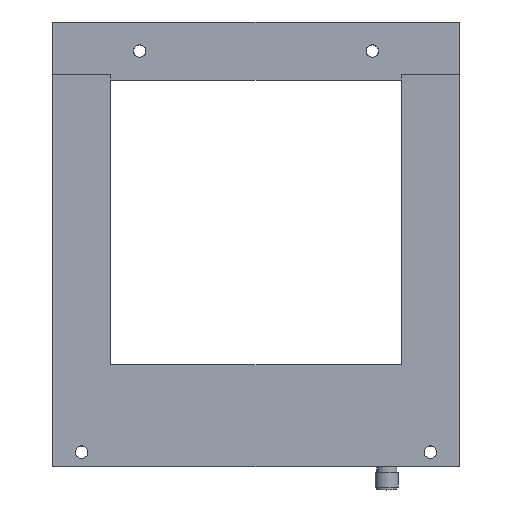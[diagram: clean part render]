
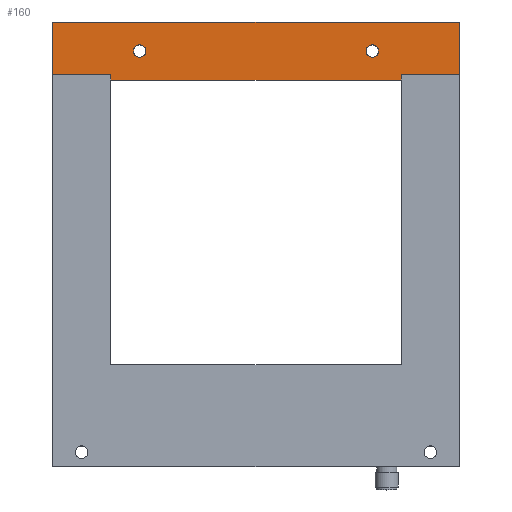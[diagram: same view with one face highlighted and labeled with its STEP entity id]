
A CAD part, top view. The second image highlights one B-rep face of the part: STEP entity #160.
In plain terms, the highlighted planar face has unit normal (0, 0, 1).
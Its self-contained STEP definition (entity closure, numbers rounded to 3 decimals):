
#160=ADVANCED_FACE('',(#369,#370,#371),#372,.T.);
#369=FACE_OUTER_BOUND('',#651,.T.);
#370=FACE_BOUND('',#652,.T.);
#371=FACE_BOUND('',#653,.T.);
#372=PLANE('',#654);
#651=EDGE_LOOP('',(#1048,#1049,#1050,#1051,#1052,#1053,#1054,#1055));
#652=EDGE_LOOP('',(#1056,#1057));
#653=EDGE_LOOP('',(#1058,#1059));
#654=AXIS2_PLACEMENT_3D('',#1060,#1061,#1062);
#1048=ORIENTED_EDGE('',*,*,#1730,.F.);
#1049=ORIENTED_EDGE('',*,*,#1731,.F.);
#1050=ORIENTED_EDGE('',*,*,#1732,.F.);
#1051=ORIENTED_EDGE('',*,*,#1733,.F.);
#1052=ORIENTED_EDGE('',*,*,#1649,.F.);
#1053=ORIENTED_EDGE('',*,*,#1640,.T.);
#1054=ORIENTED_EDGE('',*,*,#1734,.F.);
#1055=ORIENTED_EDGE('',*,*,#1735,.T.);
#1056=ORIENTED_EDGE('',*,*,#1736,.T.);
#1057=ORIENTED_EDGE('',*,*,#1737,.T.);
#1058=ORIENTED_EDGE('',*,*,#1738,.T.);
#1059=ORIENTED_EDGE('',*,*,#1692,.T.);
#1060=CARTESIAN_POINT('',(0.,70.75,10.0));
#1061=DIRECTION('',(0.0,0.0,1.0));
#1062=DIRECTION('',(1.0,0.0,0.0));
#1640=EDGE_CURVE('',#2064,#2062,#2065,.T.);
#1649=EDGE_CURVE('',#2064,#2079,#2080,.T.);
#1692=EDGE_CURVE('',#2153,#2157,#2159,.T.);
#1730=EDGE_CURVE('',#2223,#2224,#2225,.T.);
#1731=EDGE_CURVE('',#2226,#2223,#2227,.T.);
#1732=EDGE_CURVE('',#2228,#2226,#2229,.T.);
#1733=EDGE_CURVE('',#2079,#2228,#2230,.T.);
#1734=EDGE_CURVE('',#2231,#2062,#2232,.T.);
#1735=EDGE_CURVE('',#2231,#2224,#2233,.T.);
#1736=EDGE_CURVE('',#2234,#2235,#2236,.T.);
#1737=EDGE_CURVE('',#2235,#2234,#2237,.T.);
#1738=EDGE_CURVE('',#2157,#2153,#2238,.T.);
#2062=VERTEX_POINT('',#2770);
#2064=VERTEX_POINT('',#2773);
#2065=LINE('',#2774,#2775);
#2079=VERTEX_POINT('',#2795);
#2080=LINE('',#2796,#2797);
#2153=VERTEX_POINT('',#2890);
#2157=VERTEX_POINT('',#2895);
#2159=CIRCLE('',#2898,2.15);
#2223=VERTEX_POINT('',#2982);
#2224=VERTEX_POINT('',#2983);
#2225=LINE('',#2984,#2985);
#2226=VERTEX_POINT('',#2986);
#2227=LINE('',#2987,#2988);
#2228=VERTEX_POINT('',#2989);
#2229=LINE('',#2990,#2991);
#2230=LINE('',#2992,#2993);
#2231=VERTEX_POINT('',#2994);
#2232=LINE('',#2995,#2996);
#2233=LINE('',#2997,#2998);
#2234=VERTEX_POINT('',#2999);
#2235=VERTEX_POINT('',#3000);
#2236=CIRCLE('',#3001,2.15);
#2237=CIRCLE('',#3002,2.15);
#2238=CIRCLE('',#3003,2.15);
#2770=CARTESIAN_POINT('',(-50.0,60.5,10.0));
#2773=CARTESIAN_POINT('',(-50.0,62.5,10.0));
#2774=CARTESIAN_POINT('',(-50.0,62.5,10.0));
#2775=VECTOR('',#3651,100.0);
#2795=CARTESIAN_POINT('',(-70.0,62.5,10.0));
#2796=CARTESIAN_POINT('',(-50.0,62.5,10.0));
#2797=VECTOR('',#3658,1.0);
#2890=CARTESIAN_POINT('',(-37.85,70.5,10.0));
#2895=CARTESIAN_POINT('',(-42.15,70.5,10.0));
#2898=AXIS2_PLACEMENT_3D('',#3726,#3727,#3728);
#2982=CARTESIAN_POINT('',(70.0,62.5,10.0));
#2983=CARTESIAN_POINT('',(50.0,62.5,10.0));
#2984=CARTESIAN_POINT('',(70.0,62.5,10.0));
#2985=VECTOR('',#3778,1.0);
#2986=CARTESIAN_POINT('',(70.0,80.5,10.0));
#2987=CARTESIAN_POINT('',(70.0,80.5,10.0));
#2988=VECTOR('',#3779,1.0);
#2989=CARTESIAN_POINT('',(-70.0,80.5,10.0));
#2990=CARTESIAN_POINT('',(-70.0,80.5,10.0));
#2991=VECTOR('',#3780,1.0);
#2992=CARTESIAN_POINT('',(-70.0,62.5,10.0));
#2993=VECTOR('',#3781,1.0);
#2994=CARTESIAN_POINT('',(50.0,60.5,10.0));
#2995=CARTESIAN_POINT('',(50.0,60.5,10.0));
#2996=VECTOR('',#3782,1.0);
#2997=CARTESIAN_POINT('',(50.0,-37.5,10.0));
#2998=VECTOR('',#3783,100.0);
#2999=CARTESIAN_POINT('',(37.85,70.5,10.0));
#3000=CARTESIAN_POINT('',(42.15,70.5,10.0));
#3001=AXIS2_PLACEMENT_3D('',#3784,#3785,#3786);
#3002=AXIS2_PLACEMENT_3D('',#3787,#3788,#3789);
#3003=AXIS2_PLACEMENT_3D('',#3790,#3791,#3792);
#3651=DIRECTION('',(0.,-1.0,0.0));
#3658=DIRECTION('',(-1.0,0.0,0.0));
#3726=CARTESIAN_POINT('',(-40.0,70.5,10.0));
#3727=DIRECTION('',(0.0,0.0,-1.0));
#3728=DIRECTION('',(1.0,0.0,0.0));
#3778=DIRECTION('',(-1.0,0.0,0.0));
#3779=DIRECTION('',(0.0,-1.0,0.0));
#3780=DIRECTION('',(1.0,0.0,0.0));
#3781=DIRECTION('',(0.,1.0,0.0));
#3782=DIRECTION('',(-1.0,0.0,0.0));
#3783=DIRECTION('',(0.,1.0,0.0));
#3784=CARTESIAN_POINT('',(40.0,70.5,10.0));
#3785=DIRECTION('',(0.0,0.0,-1.0));
#3786=DIRECTION('',(1.0,0.0,0.0));
#3787=CARTESIAN_POINT('',(40.0,70.5,10.0));
#3788=DIRECTION('',(0.0,0.0,-1.0));
#3789=DIRECTION('',(1.0,0.0,0.0));
#3790=CARTESIAN_POINT('',(-40.0,70.5,10.0));
#3791=DIRECTION('',(0.0,0.0,-1.0));
#3792=DIRECTION('',(1.0,0.0,0.0));
